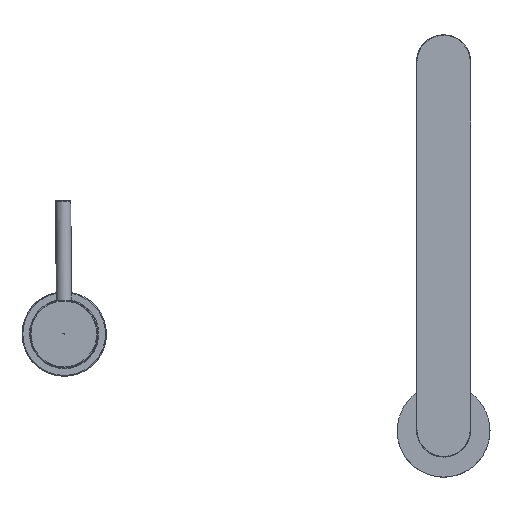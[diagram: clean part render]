
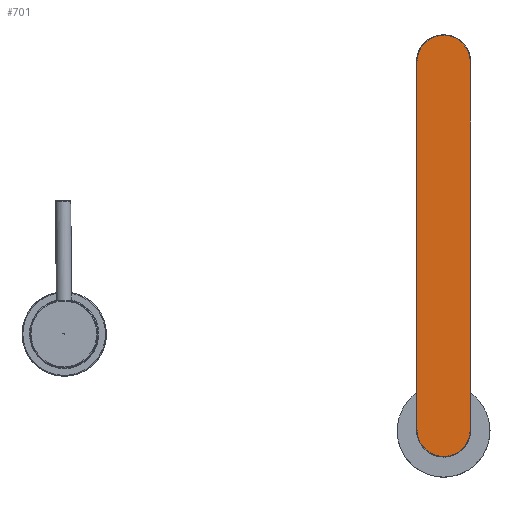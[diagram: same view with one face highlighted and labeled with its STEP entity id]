
A CAD part, top view. The second image highlights one B-rep face of the part: STEP entity #701.
In plain terms, the highlighted planar face has unit normal (0, 0, 1) as drawn and (0, 1, 0) by its records, which use the part's own axes.
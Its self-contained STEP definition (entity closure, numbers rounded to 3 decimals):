
#633=CARTESIAN_POINT('Vertex',(15.8,339.,218.)) ;
#640=CARTESIAN_POINT('Vertex',(15.8,339.,0.)) ;
#643=CARTESIAN_POINT('Line Origine',(15.8,339.,218.391)) ;
#655=CARTESIAN_POINT('Axis2P3D Location',(0.,339.,0.)) ;
#660=CARTESIAN_POINT('Line Origine',(-15.8,339.,109.)) ;
#664=CARTESIAN_POINT('Vertex',(-15.8,339.,0.)) ;
#666=CARTESIAN_POINT('Vertex',(-15.8,339.,218.)) ;
#669=CARTESIAN_POINT('Axis2P3D Location',(0.,339.,218.)) ;
#673=CARTESIAN_POINT('Vertex',(15.795,339.,218.386)) ;
#676=CARTESIAN_POINT('Axis2P3D Location',(0.,339.,218.)) ;
#681=CARTESIAN_POINT('Axis2P3D Location',(0.,339.,0.)) ;
#685=CARTESIAN_POINT('Vertex',(-15.795,339.,-0.386)) ;
#688=CARTESIAN_POINT('Axis2P3D Location',(0.,339.,0.)) ;
#644=DIRECTION('Vector Direction',(0.,0.,-1.)) ;
#656=DIRECTION('Axis2P3D Direction',(-0.,1.,0.)) ;
#657=DIRECTION('Axis2P3D XDirection',(1.,0.,0.)) ;
#661=DIRECTION('Vector Direction',(0.,0.,1.)) ;
#670=DIRECTION('Axis2P3D Direction',(-0.,1.,0.)) ;
#677=DIRECTION('Axis2P3D Direction',(-0.,1.,0.)) ;
#682=DIRECTION('Axis2P3D Direction',(-0.,1.,0.)) ;
#689=DIRECTION('Axis2P3D Direction',(-0.,1.,0.)) ;
#658=AXIS2_PLACEMENT_3D('Plane Axis2P3D',#655,#656,#657) ;
#671=AXIS2_PLACEMENT_3D('Circle Axis2P3D',#669,#670,$) ;
#678=AXIS2_PLACEMENT_3D('Circle Axis2P3D',#676,#677,$) ;
#683=AXIS2_PLACEMENT_3D('Circle Axis2P3D',#681,#682,$) ;
#690=AXIS2_PLACEMENT_3D('Circle Axis2P3D',#688,#689,$) ;
#694=ORIENTED_EDGE('',*,*,#668,.T.) ;
#695=ORIENTED_EDGE('',*,*,#675,.T.) ;
#696=ORIENTED_EDGE('',*,*,#680,.T.) ;
#697=ORIENTED_EDGE('',*,*,#647,.T.) ;
#698=ORIENTED_EDGE('',*,*,#687,.T.) ;
#699=ORIENTED_EDGE('',*,*,#692,.T.) ;
#645=VECTOR('Line Direction',#644,1.) ;
#662=VECTOR('Line Direction',#661,1.) ;
#701=ADVANCED_FACE('BREP_WITH_VOIDS #1639',(#700),#659,.T.) ;
#672=CIRCLE('generated circle',#671,15.8) ;
#679=CIRCLE('generated circle',#678,15.8) ;
#684=CIRCLE('generated circle',#683,15.8) ;
#691=CIRCLE('generated circle',#690,15.8) ;
#647=EDGE_CURVE('',#634,#641,#646,.T.) ;
#668=EDGE_CURVE('',#665,#667,#663,.T.) ;
#675=EDGE_CURVE('',#667,#674,#672,.T.) ;
#680=EDGE_CURVE('',#674,#634,#679,.T.) ;
#687=EDGE_CURVE('',#641,#686,#684,.T.) ;
#692=EDGE_CURVE('',#686,#665,#691,.T.) ;
#693=EDGE_LOOP('',(#694,#695,#696,#697,#698,#699)) ;
#700=FACE_OUTER_BOUND('',#693,.T.) ;
#646=LINE('Line',#643,#645) ;
#663=LINE('Line',#660,#662) ;
#659=PLANE('',#658) ;
#634=VERTEX_POINT('',#633) ;
#641=VERTEX_POINT('',#640) ;
#665=VERTEX_POINT('',#664) ;
#667=VERTEX_POINT('',#666) ;
#674=VERTEX_POINT('',#673) ;
#686=VERTEX_POINT('',#685) ;
